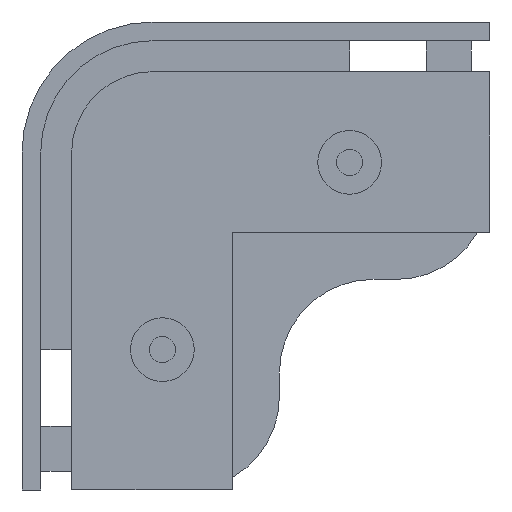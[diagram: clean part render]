
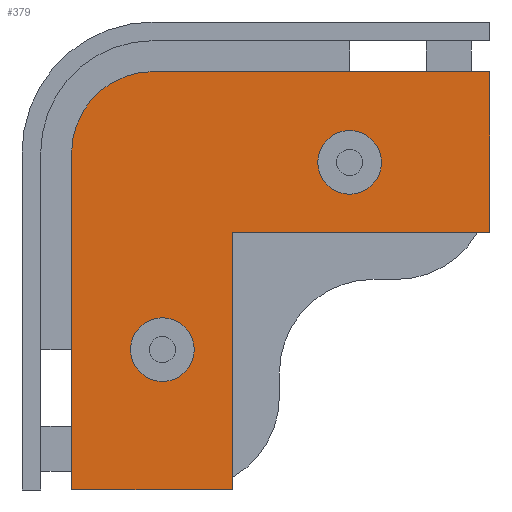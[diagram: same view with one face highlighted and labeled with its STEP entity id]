
A CAD part, front view. The second image highlights one B-rep face of the part: STEP entity #379.
In plain terms, the highlighted planar face has unit normal (0, -1, 0).
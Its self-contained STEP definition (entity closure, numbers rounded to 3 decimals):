
#12 = LINE ( 'NONE', #1330, #1297 ) ;
#22 = LINE ( 'NONE', #1035, #1111 ) ;
#57 = ORIENTED_EDGE ( 'NONE', *, *, #225, .T. ) ;
#87 = CARTESIAN_POINT ( 'NONE',  ( -203., 0., 196.7 ) ) ;
#114 = DIRECTION ( 'NONE',  ( 0., 0., -1. ) ) ;
#117 = DIRECTION ( 'NONE',  ( 0., 1., 0. ) ) ;
#119 = DIRECTION ( 'NONE',  ( 0., 0., 1. ) ) ;
#140 = DIRECTION ( 'NONE',  ( 0., 0., 1. ) ) ;
#142 = EDGE_LOOP ( 'NONE', ( #1675, #1219 ) ) ;
#152 = DIRECTION ( 'NONE',  ( -1., 0., 0. ) ) ;
#157 = CIRCLE ( 'NONE', #995, 8.7 ) ;
#176 = CARTESIAN_POINT ( 'NONE',  ( -211.7, 0., 152. ) ) ;
#181 = CIRCLE ( 'NONE', #370, 3.4 ) ;
#182 = VERTEX_POINT ( 'NONE', #925 ) ;
#200 = VERTEX_POINT ( 'NONE', #1201 ) ;
#216 = CARTESIAN_POINT ( 'NONE',  ( -211.7, 0., 184. ) ) ;
#225 = EDGE_CURVE ( 'NONE', #1324, #1644, #1209, .T. ) ;
#254 = CARTESIAN_POINT ( 'NONE',  ( -167., 0., 196.7 ) ) ;
#263 = VECTOR ( 'NONE', #1508, 1000. ) ;
#266 = EDGE_CURVE ( 'NONE', #1235, #1324, #1256, .T. ) ;
#306 = EDGE_CURVE ( 'NONE', #428, #1634, #708, .T. ) ;
#313 = DIRECTION ( 'NONE',  ( 0., 0., 1. ) ) ;
#344 = AXIS2_PLACEMENT_3D ( 'NONE', #635, #772, #1539 ) ;
#370 = AXIS2_PLACEMENT_3D ( 'NONE', #1505, #1626, #313 ) ;
#377 = LINE ( 'NONE', #1431, #263 ) ;
#379 = ADVANCED_FACE ( 'NONE', ( #1011, #619, #641 ), #1041, .F. ) ;
#383 = CARTESIAN_POINT ( 'NONE',  ( -167., 0., 179.5 ) ) ;
#400 = EDGE_CURVE ( 'NONE', #1343, #200, #1078, .T. ) ;
#428 = VERTEX_POINT ( 'NONE', #1680 ) ;
#452 = EDGE_LOOP ( 'NONE', ( #1074, #582 ) ) ;
#487 = ORIENTED_EDGE ( 'NONE', *, *, #901, .F. ) ;
#550 = VERTEX_POINT ( 'NONE', #1573 ) ;
#567 = CARTESIAN_POINT ( 'NONE',  ( -194.5, 0., 179.5 ) ) ;
#582 = ORIENTED_EDGE ( 'NONE', *, *, #400, .F. ) ;
#592 = DIRECTION ( 'NONE',  ( 0., 0., 1. ) ) ;
#613 = CARTESIAN_POINT ( 'NONE',  ( -202., 0., 167. ) ) ;
#619 = FACE_BOUND ( 'NONE', #142, .T. ) ;
#627 = EDGE_CURVE ( 'NONE', #550, #182, #916, .T. ) ;
#635 = CARTESIAN_POINT ( 'NONE',  ( -202., 0., 167. ) ) ;
#641 = FACE_OUTER_BOUND ( 'NONE', #713, .T. ) ;
#680 = DIRECTION ( 'NONE',  ( 0., 0., 1. ) ) ;
#707 = ORIENTED_EDGE ( 'NONE', *, *, #306, .T. ) ;
#708 = LINE ( 'NONE', #216, #1618 ) ;
#713 = EDGE_LOOP ( 'NONE', ( #865, #892, #57, #1521, #902, #487, #707 ) ) ;
#715 = EDGE_CURVE ( 'NONE', #182, #550, #181, .T. ) ;
#757 = CARTESIAN_POINT ( 'NONE',  ( -203., 0., 188. ) ) ;
#761 = CARTESIAN_POINT ( 'NONE',  ( -194.5, 0., 152. ) ) ;
#766 = DIRECTION ( 'NONE',  ( 0., 0., 1. ) ) ;
#772 = DIRECTION ( 'NONE',  ( 0., -1., 0. ) ) ;
#778 = CARTESIAN_POINT ( 'NONE',  ( -202., 0., 163.6 ) ) ;
#784 = CARTESIAN_POINT ( 'NONE',  ( -182., 0., 187. ) ) ;
#865 = ORIENTED_EDGE ( 'NONE', *, *, #1683, .T. ) ;
#892 = ORIENTED_EDGE ( 'NONE', *, *, #266, .T. ) ;
#901 = EDGE_CURVE ( 'NONE', #428, #1227, #157, .T. ) ;
#902 = ORIENTED_EDGE ( 'NONE', *, *, #1395, .T. ) ;
#916 = CIRCLE ( 'NONE', #941, 3.4 ) ;
#925 = CARTESIAN_POINT ( 'NONE',  ( -182., 0., 183.6 ) ) ;
#941 = AXIS2_PLACEMENT_3D ( 'NONE', #784, #1304, #140 ) ;
#995 = AXIS2_PLACEMENT_3D ( 'NONE', #757, #1278, #114 ) ;
#1003 = EDGE_CURVE ( 'NONE', #1644, #1452, #12, .T. ) ;
#1011 = FACE_BOUND ( 'NONE', #452, .T. ) ;
#1035 = CARTESIAN_POINT ( 'NONE',  ( -199., 0., 196.7 ) ) ;
#1041 = PLANE ( 'NONE',  #1589 ) ;
#1074 = ORIENTED_EDGE ( 'NONE', *, *, #1319, .F. ) ;
#1078 = CIRCLE ( 'NONE', #344, 3.4 ) ;
#1087 = DIRECTION ( 'NONE',  ( 1., 0., 0. ) ) ;
#1111 = VECTOR ( 'NONE', #152, 1000. ) ;
#1134 = VECTOR ( 'NONE', #592, 1000. ) ;
#1139 = CARTESIAN_POINT ( 'NONE',  ( -203., 0., -188. ) ) ;
#1140 = CIRCLE ( 'NONE', #1356, 3.4 ) ;
#1201 = CARTESIAN_POINT ( 'NONE',  ( -202., 0., 170.4 ) ) ;
#1209 = LINE ( 'NONE', #567, #1561 ) ;
#1219 = ORIENTED_EDGE ( 'NONE', *, *, #715, .F. ) ;
#1227 = VERTEX_POINT ( 'NONE', #87 ) ;
#1228 = DIRECTION ( 'NONE',  ( 0., 0., -1. ) ) ;
#1235 = VERTEX_POINT ( 'NONE', #761 ) ;
#1236 = CARTESIAN_POINT ( 'NONE',  ( -194.5, 0., 179.5 ) ) ;
#1256 = LINE ( 'NONE', #1236, #1134 ) ;
#1278 = DIRECTION ( 'NONE',  ( 0., 1., 0. ) ) ;
#1282 = DIRECTION ( 'NONE',  ( 0., -1., 0. ) ) ;
#1297 = VECTOR ( 'NONE', #680, 1000. ) ;
#1304 = DIRECTION ( 'NONE',  ( 0., -1., 0. ) ) ;
#1319 = EDGE_CURVE ( 'NONE', #200, #1343, #1140, .T. ) ;
#1324 = VERTEX_POINT ( 'NONE', #1419 ) ;
#1330 = CARTESIAN_POINT ( 'NONE',  ( -167., 0., 194.5 ) ) ;
#1343 = VERTEX_POINT ( 'NONE', #778 ) ;
#1356 = AXIS2_PLACEMENT_3D ( 'NONE', #613, #1282, #119 ) ;
#1395 = EDGE_CURVE ( 'NONE', #1452, #1227, #22, .T. ) ;
#1419 = CARTESIAN_POINT ( 'NONE',  ( -194.5, 0., 179.5 ) ) ;
#1431 = CARTESIAN_POINT ( 'NONE',  ( -209.5, 0., 152. ) ) ;
#1452 = VERTEX_POINT ( 'NONE', #254 ) ;
#1505 = CARTESIAN_POINT ( 'NONE',  ( -182., 0., 187. ) ) ;
#1508 = DIRECTION ( 'NONE',  ( 1., 0., 0. ) ) ;
#1521 = ORIENTED_EDGE ( 'NONE', *, *, #1003, .T. ) ;
#1539 = DIRECTION ( 'NONE',  ( 0., 0., 1. ) ) ;
#1561 = VECTOR ( 'NONE', #1087, 1000. ) ;
#1573 = CARTESIAN_POINT ( 'NONE',  ( -182., 0., 190.4 ) ) ;
#1589 = AXIS2_PLACEMENT_3D ( 'NONE', #1139, #117, #766 ) ;
#1618 = VECTOR ( 'NONE', #1228, 1000. ) ;
#1626 = DIRECTION ( 'NONE',  ( 0., -1., 0. ) ) ;
#1634 = VERTEX_POINT ( 'NONE', #176 ) ;
#1644 = VERTEX_POINT ( 'NONE', #383 ) ;
#1675 = ORIENTED_EDGE ( 'NONE', *, *, #627, .F. ) ;
#1680 = CARTESIAN_POINT ( 'NONE',  ( -211.7, 0., 188. ) ) ;
#1683 = EDGE_CURVE ( 'NONE', #1634, #1235, #377, .T. ) ;
